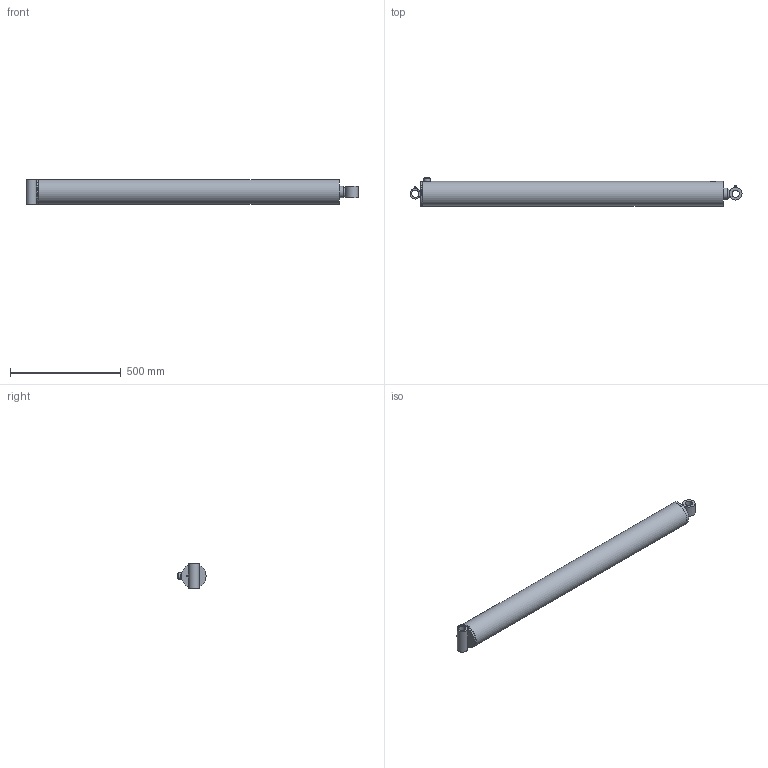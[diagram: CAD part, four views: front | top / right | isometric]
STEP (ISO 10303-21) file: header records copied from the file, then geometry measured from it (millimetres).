
FILE_DESCRIPTION((''),'2;1');
FILE_NAME('\\SRVR-ENG\EngSales\PMC-5648.stp','2011-06-03T14:46:00',('KneiflD'),(''),'Autodesk Inventor 2011','Autodesk Inventor 2011','');
FILE_SCHEMA(('AUTOMOTIVE_DESIGN { 1 0 10303 214 1 1 1 1 }'));
Length unit declared in the file: inch
Products named in the file (23): PMC-5648; 061900045; 051900067; 161900081V; 200014404V; 210600086V; 021100310; 011100880; 210600347V; 071900019; 081900451V; 220000212V; 240004008V; 240034342V; 240000342V; 240000026V; 240061342V; 240020009V; 230001400V; 200018003V; 270010002V; 270010020V; 250001329V
Assembly tree (25 placements, depth 3):
  PMC-5648
    061900045
      051900067
      161900081V
      200014404V
      210600086V
    021100310
      011100880
      210600347V
    071900019
    081900451V
    220000212V
    240004008V
    240034342V  x2
    240000342V  x2
    240000026V
    240061342V
    240020009V
    230001400V
    200018003V  x2
    270010002V
    270010020V
    250001329V
Bounding box: 1500.17 x 127 x 114.3 mm (x, y, z)
Volume: 5871492.4 mm3; surface area: 1352411.1 mm2
Topology: 23 solids, 23 shells, 269 faces, 537 edges, 322 vertices
Faces by surface type: plane 114, cylinder 65, torus 42, cone 39, bspline 7, sphere 2
Full cylindrical faces by diameter (mm): 1.524 x2, 3.175 x2, 6.074 x1, 8.839 x2, 9.08 x1, 12.7 x1, 17.463 x1, 17.475 x1, 23.813 x1, 28.575 x1, 29.972 x1, 31.699 x1, 31.826 x1, 32.258 x1, 32.385 x1, 34.315 x1, 47.625 x1, 50.8 x2, 50.876 x2, 51.752 x1, 54.61 x1, 57.15 x1, 58.725 x2, 59.373 x1, 60.325 x1, 60.452 x1, 63.5 x1, 80.95 x1, 91.592 x1, 92.151 x1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
Entity records: 7285 total; most frequent: CARTESIAN_POINT 1929, DIRECTION 1083, ORIENTED_EDGE 714, AXIS2_PLACEMENT_3D 496, EDGE_LOOP 426, EDGE_CURVE 357, VERTEX_POINT 287, FACE_OUTER_BOUND 247
